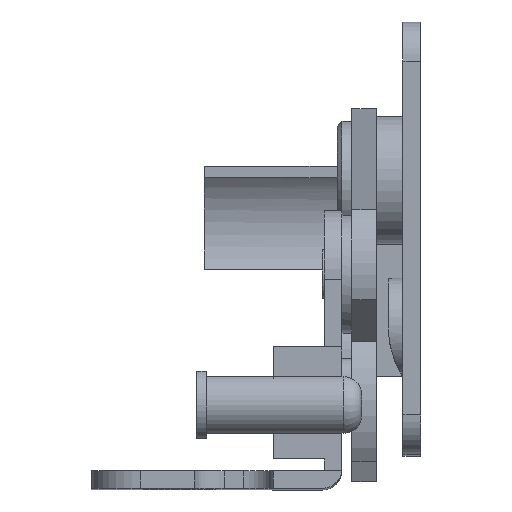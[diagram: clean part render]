
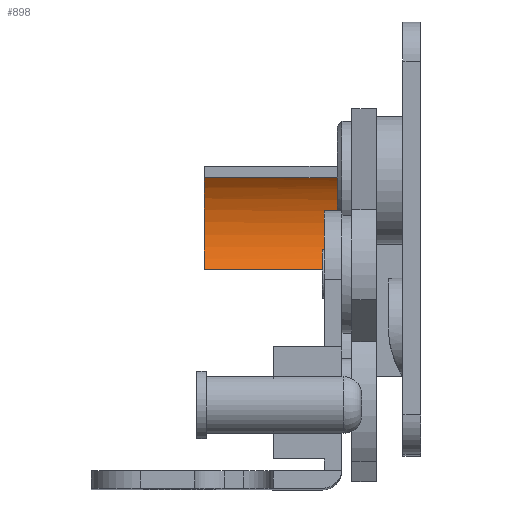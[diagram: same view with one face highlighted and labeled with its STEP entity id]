
A CAD part, top view. The second image highlights one B-rep face of the part: STEP entity #898.
In plain terms, the highlighted cylindrical face has radius 8 mm (diameter 16 mm), a partial arc.
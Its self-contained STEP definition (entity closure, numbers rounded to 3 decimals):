
#15 = CARTESIAN_POINT ( 'NONE',  ( -1.8, -11.972, -93.23 ) ) ;
#16 = DIRECTION ( 'NONE',  ( -1., 0., 0. ) ) ;
#17 = DIRECTION ( 'NONE',  ( 0., 1., 0. ) ) ;
#26 = LINE ( 'NONE', #36, #4699 ) ;
#32 = LINE ( 'NONE', #34, #4701 ) ;
#33 = CARTESIAN_POINT ( 'NONE',  ( -22., -16., -100.142 ) ) ;
#34 = CARTESIAN_POINT ( 'NONE',  ( -22., -7.873, -100.1 ) ) ;
#35 = DIRECTION ( 'NONE',  ( -1., 0., 0. ) ) ;
#36 = CARTESIAN_POINT ( 'NONE',  ( -22., -6.647, -99.2 ) ) ;
#37 = LINE ( 'NONE', #33, #4704 ) ;
#38 = DIRECTION ( 'NONE',  ( 1., 0., 0. ) ) ;
#39 = CARTESIAN_POINT ( 'NONE',  ( -22., -11.972, -93.23 ) ) ;
#40 = DIRECTION ( 'NONE',  ( -1., 0., 0. ) ) ;
#41 = DIRECTION ( 'NONE',  ( 0., 1., 0. ) ) ;
#42 = DIRECTION ( 'NONE',  ( 1., 0., 0. ) ) ;
#898 = ADVANCED_FACE ( 'NONE', ( #3033 ), #3035, .F. ) ;
#908 = EDGE_CURVE ( 'NONE', #2143, #2169, #3256, .T. ) ;
#1240 = CARTESIAN_POINT ( 'NONE',  ( -4.5, -6.647, -99.2 ) ) ;
#1256 = CARTESIAN_POINT ( 'NONE',  ( -1.8, -7.873, -100.1 ) ) ;
#1266 = CARTESIAN_POINT ( 'NONE',  ( -4.5, -7.873, -100.1 ) ) ;
#1295 = CARTESIAN_POINT ( 'NONE',  ( -1.8, -16., -100.142 ) ) ;
#1299 = CARTESIAN_POINT ( 'NONE',  ( -22., -6.647, -99.2 ) ) ;
#1300 = CARTESIAN_POINT ( 'NONE',  ( -22., -16., -100.142 ) ) ;
#1489 = EDGE_CURVE ( 'NONE', #2159, #2198, #4693, .T. ) ;
#1495 = EDGE_CURVE ( 'NONE', #2159, #2169, #32, .T. ) ;
#1496 = EDGE_CURVE ( 'NONE', #2202, #2143, #26, .T. ) ;
#1497 = EDGE_CURVE ( 'NONE', #2202, #2203, #4702, .T. ) ;
#1498 = EDGE_CURVE ( 'NONE', #2203, #2198, #37, .T. ) ;
#1716 = EDGE_LOOP ( 'NONE', ( #2461, #2460, #2459, #2458, #2457, #2456 ) ) ;
#2143 = VERTEX_POINT ( 'NONE', #1240 ) ;
#2159 = VERTEX_POINT ( 'NONE', #1256 ) ;
#2169 = VERTEX_POINT ( 'NONE', #1266 ) ;
#2198 = VERTEX_POINT ( 'NONE', #1295 ) ;
#2202 = VERTEX_POINT ( 'NONE', #1299 ) ;
#2203 = VERTEX_POINT ( 'NONE', #1300 ) ;
#2456 = ORIENTED_EDGE ( 'NONE', *, *, #1489, .F. ) ;
#2457 = ORIENTED_EDGE ( 'NONE', *, *, #1498, .T. ) ;
#2458 = ORIENTED_EDGE ( 'NONE', *, *, #1497, .T. ) ;
#2459 = ORIENTED_EDGE ( 'NONE', *, *, #1496, .F. ) ;
#2460 = ORIENTED_EDGE ( 'NONE', *, *, #908, .F. ) ;
#2461 = ORIENTED_EDGE ( 'NONE', *, *, #1495, .T. ) ;
#3023 = DIRECTION ( 'NONE',  ( 1., 0., 0. ) ) ;
#3033 = FACE_OUTER_BOUND ( 'NONE', #1716, .T. ) ;
#3034 = CARTESIAN_POINT ( 'NONE',  ( -22., -11.972, -93.23 ) ) ;
#3035 = CYLINDRICAL_SURFACE ( 'NONE', #3247, 8. ) ;
#3036 = DIRECTION ( 'NONE',  ( 0., -1., 0. ) ) ;
#3068 = CARTESIAN_POINT ( 'NONE',  ( -4.5, -11.972, -93.23 ) ) ;
#3069 = DIRECTION ( 'NONE',  ( -1., 0., 0. ) ) ;
#3070 = DIRECTION ( 'NONE',  ( 0., 1., 0. ) ) ;
#3247 = AXIS2_PLACEMENT_3D ( 'NONE', #3034, #3023, #3036 ) ;
#3256 = CIRCLE ( 'NONE', #3259, 8. ) ;
#3259 = AXIS2_PLACEMENT_3D ( 'NONE', #3068, #3069, #3070 ) ;
#4693 = CIRCLE ( 'NONE', #4694, 8. ) ;
#4694 = AXIS2_PLACEMENT_3D ( 'NONE', #15, #16, #17 ) ;
#4699 = VECTOR ( 'NONE', #38, 1000. ) ;
#4701 = VECTOR ( 'NONE', #35, 1000. ) ;
#4702 = CIRCLE ( 'NONE', #4705, 8. ) ;
#4704 = VECTOR ( 'NONE', #42, 1000. ) ;
#4705 = AXIS2_PLACEMENT_3D ( 'NONE', #39, #40, #41 ) ;
